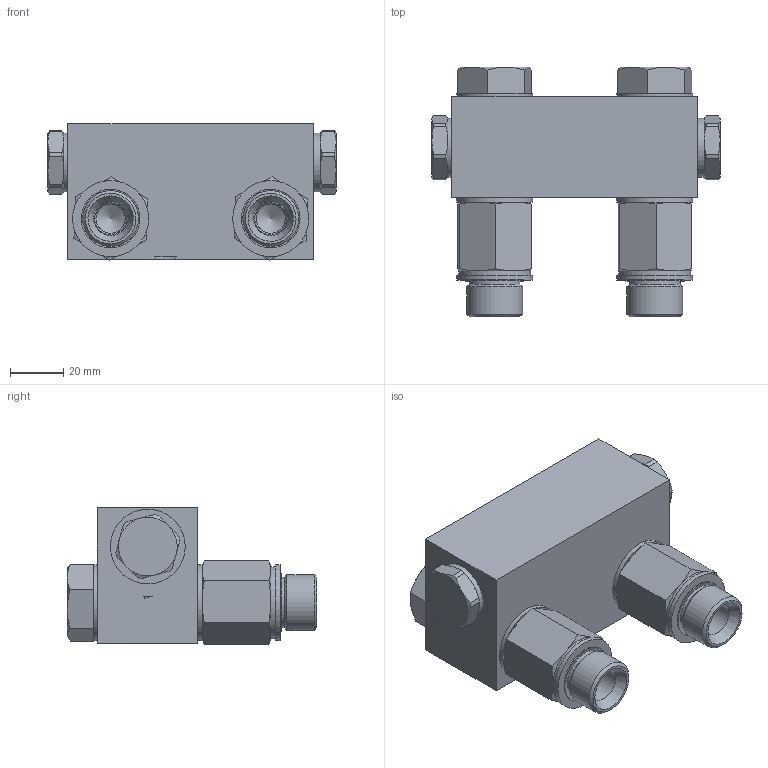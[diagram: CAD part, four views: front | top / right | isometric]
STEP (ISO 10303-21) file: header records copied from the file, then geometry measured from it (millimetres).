
FILE_DESCRIPTION(/* description */ ('Unknown'),/* implementation_level */ '2;1');
FILE_NAME(/* name */ 'RF LC4695',/* time_stamp */ '2022-11-07T16:03:53+00:00',/* author */ ('Unknown'),/* organization */ ('Unknown'),/* preprocessor_version */ 'ST-DEVELOPER v18.1',/* originating_system */ 'Solid Edge',/* authorisation */ 'Unknown');
FILE_SCHEMA (('AUTOMOTIVE_DESIGN {1 0 10303 214 3 1 1}'));
Length unit declared in the file: millimetre
Products named in the file (6): RF 4695; M-4695; PT-BAN-012-038; V-DPC0S08; PT-AD12BMX12BF-GEMAC; PT-SLBI012
Assembly tree (12 placements, depth 2):
  RF 4695
    M-4695
    PT-BAN-012-038  x2
    V-DPC0S08
    PT-AD12BMX12BF-GEMAC  x2
    PT-SLBI012  x6
Bounding box: 108 x 93.6 x 51.08 mm (x, y, z)
Volume: 228322 mm3; surface area: 66492.1 mm2
Topology: 17 solids, 17 shells, 763 faces, 1919 edges, 1230 vertices
Faces by surface type: plane 473, cylinder 130, cone 130, torus 20, bspline 10
Full cylindrical faces by diameter (mm): 0.2 x4, 2.9 x2, 5 x8, 6 x2, 7 x8, 9.7 x1, 9.9 x2, 11 x2, 11.445 x2, 12.3 x2, 12.7 x8, 15 x2, 16.7 x2, 17 x2, 17.5 x2, 18.5 x6, 18.631 x4, 18.96 x2, 19.05 x2, 20.7 x4, 20.955 x4, 21.7 x2, 22 x14, 27 x2, 28 x2, 28.5 x6, 30 x2
Entity records: 20611 total; most frequent: CARTESIAN_POINT 6244, ORIENTED_EDGE 2974, DIRECTION 2264, EDGE_CURVE 1487, VERTEX_POINT 1036, AXIS2_PLACEMENT_3D 922, FACE_BOUND 875, EDGE_LOOP 874
